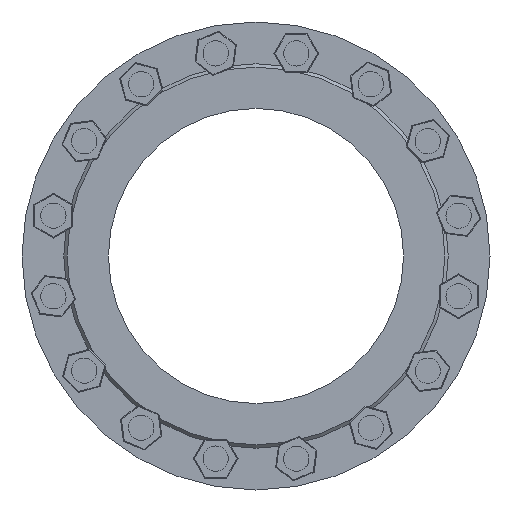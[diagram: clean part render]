
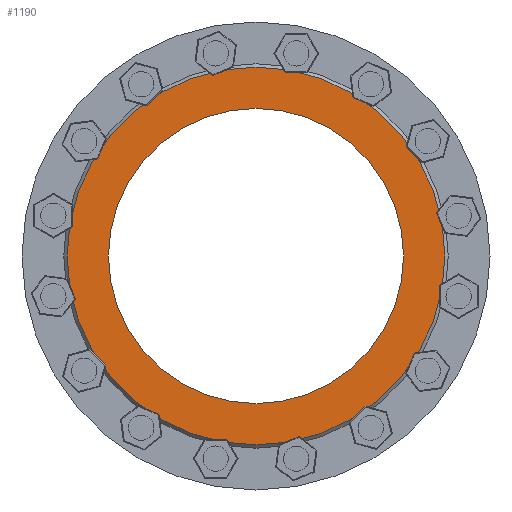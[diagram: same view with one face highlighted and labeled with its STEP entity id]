
A CAD part, left-side view. The second image highlights one B-rep face of the part: STEP entity #1190.
In plain terms, the highlighted planar face has unit normal (-1, 0, 0).
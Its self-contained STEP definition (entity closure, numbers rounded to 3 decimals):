
#1190 = ADVANCED_FACE ( 'NONE', ( #28541, #9708 ), #5975, .F. ) ;
#1728 = AXIS2_PLACEMENT_3D ( 'NONE', #18596, #44865, #48090 ) ;
#1902 = CARTESIAN_POINT ( 'NONE',  ( 0., 0., 175. ) ) ;
#2262 = CARTESIAN_POINT ( 'NONE',  ( 0., 0., 0. ) ) ;
#4697 = EDGE_CURVE ( 'NONE', #20980, #20980, #25951, .T. ) ;
#5083 = EDGE_LOOP ( 'NONE', ( #14548 ) ) ;
#5975 = PLANE ( 'NONE',  #40805 ) ;
#8085 = CARTESIAN_POINT ( 'NONE',  ( 0., 0., 0. ) ) ;
#9708 = FACE_OUTER_BOUND ( 'NONE', #17304, .T. ) ;
#10093 = VERTEX_POINT ( 'NONE', #21720 ) ;
#14548 = ORIENTED_EDGE ( 'NONE', *, *, #4697, .F. ) ;
#17304 = EDGE_LOOP ( 'NONE', ( #40447 ) ) ;
#17388 = DIRECTION ( 'NONE',  ( 1., 0., 0. ) ) ;
#18596 = CARTESIAN_POINT ( 'NONE',  ( 0., 0., 0. ) ) ;
#20980 = VERTEX_POINT ( 'NONE', #1902 ) ;
#21720 = CARTESIAN_POINT ( 'NONE',  ( 0., 0., 224. ) ) ;
#25951 = CIRCLE ( 'NONE', #33058, 175. ) ;
#28541 = FACE_BOUND ( 'NONE', #5083, .T. ) ;
#33058 = AXIS2_PLACEMENT_3D ( 'NONE', #8085, #46015, #34620 ) ;
#34620 = DIRECTION ( 'NONE',  ( 0., 0., 1. ) ) ;
#38294 = EDGE_CURVE ( 'NONE', #10093, #10093, #45955, .T. ) ;
#40447 = ORIENTED_EDGE ( 'NONE', *, *, #38294, .T. ) ;
#40805 = AXIS2_PLACEMENT_3D ( 'NONE', #2262, #17388, #42916 ) ;
#42916 = DIRECTION ( 'NONE',  ( 0., 0., -1. ) ) ;
#44865 = DIRECTION ( 'NONE',  ( -1., 0., 0. ) ) ;
#45955 = CIRCLE ( 'NONE', #1728, 224. ) ;
#46015 = DIRECTION ( 'NONE',  ( -1., 0., 0. ) ) ;
#48090 = DIRECTION ( 'NONE',  ( 0., 0., 1. ) ) ;
